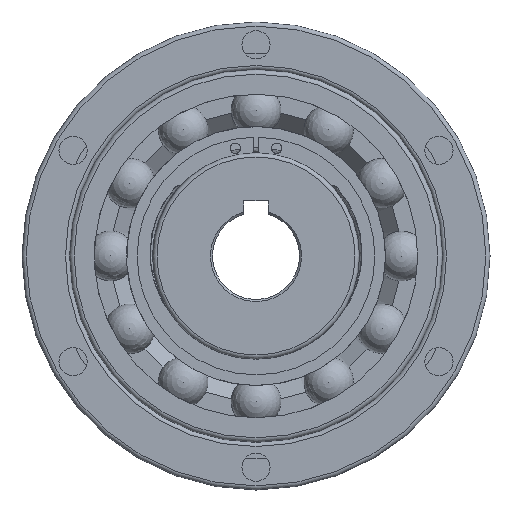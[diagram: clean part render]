
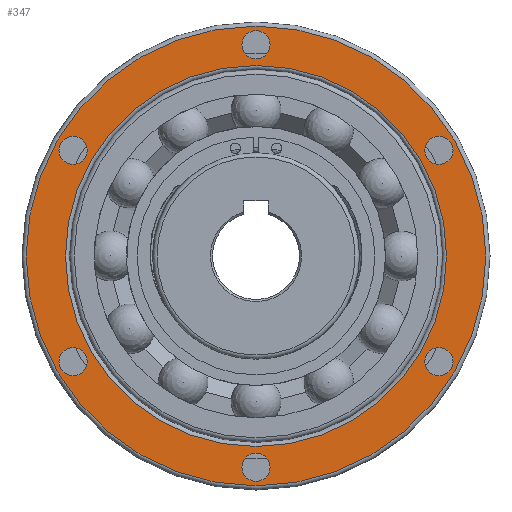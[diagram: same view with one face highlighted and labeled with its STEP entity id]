
A CAD part, left-side view. The second image highlights one B-rep face of the part: STEP entity #347.
In plain terms, the highlighted planar face has unit normal (-1, 0, 0).
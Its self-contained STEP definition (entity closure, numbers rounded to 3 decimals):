
#347 = ADVANCED_FACE( '', ( #806, #807, #808, #809, #810, #811, #812, #813 ), #814, .F. );
#806 = FACE_OUTER_BOUND( '', #1426, .T. );
#807 = FACE_BOUND( '', #1427, .T. );
#808 = FACE_BOUND( '', #1428, .T. );
#809 = FACE_BOUND( '', #1429, .T. );
#810 = FACE_BOUND( '', #1430, .T. );
#811 = FACE_BOUND( '', #1431, .T. );
#812 = FACE_BOUND( '', #1432, .T. );
#813 = FACE_BOUND( '', #1433, .T. );
#814 = PLANE( '', #1434 );
#1426 = EDGE_LOOP( '', ( #2454 ) );
#1427 = EDGE_LOOP( '', ( #2455 ) );
#1428 = EDGE_LOOP( '', ( #2456 ) );
#1429 = EDGE_LOOP( '', ( #2457 ) );
#1430 = EDGE_LOOP( '', ( #2458 ) );
#1431 = EDGE_LOOP( '', ( #2459 ) );
#1432 = EDGE_LOOP( '', ( #2460 ) );
#1433 = EDGE_LOOP( '', ( #2461 ) );
#1434 = AXIS2_PLACEMENT_3D( '', #2462, #2463, #2464 );
#2454 = ORIENTED_EDGE( '', *, *, #3426, .T. );
#2455 = ORIENTED_EDGE( '', *, *, #3427, .T. );
#2456 = ORIENTED_EDGE( '', *, *, #3188, .T. );
#2457 = ORIENTED_EDGE( '', *, *, #3092, .T. );
#2458 = ORIENTED_EDGE( '', *, *, #3428, .T. );
#2459 = ORIENTED_EDGE( '', *, *, #3328, .T. );
#2460 = ORIENTED_EDGE( '', *, *, #3429, .T. );
#2461 = ORIENTED_EDGE( '', *, *, #3279, .T. );
#2462 = CARTESIAN_POINT( '', ( 4.5, 0., 56.5 ) );
#2463 = DIRECTION( '', ( 1., 0., 0. ) );
#2464 = DIRECTION( '', ( 0., 1., 0. ) );
#3092 = EDGE_CURVE( '', #3664, #3664, #3665, .T. );
#3188 = EDGE_CURVE( '', #3828, #3828, #3829, .T. );
#3279 = EDGE_CURVE( '', #3968, #3968, #3969, .T. );
#3328 = EDGE_CURVE( '', #4043, #4043, #4044, .T. );
#3426 = EDGE_CURVE( '', #4185, #4185, #4186, .T. );
#3427 = EDGE_CURVE( '', #4187, #4187, #4188, .T. );
#3428 = EDGE_CURVE( '', #4189, #4189, #4190, .T. );
#3429 = EDGE_CURVE( '', #4191, #4191, #4192, .T. );
#3664 = VERTEX_POINT( '', #4782 );
#3665 = CIRCLE( '', #4783, 3.4 );
#3828 = VERTEX_POINT( '', #5295 );
#3829 = CIRCLE( '', #5296, 3.4 );
#3968 = VERTEX_POINT( '', #5811 );
#3969 = CIRCLE( '', #5812, 3.4 );
#4043 = VERTEX_POINT( '', #6057 );
#4044 = CIRCLE( '', #6058, 3.4 );
#4185 = VERTEX_POINT( '', #6472 );
#4186 = CIRCLE( '', #6473, 55.5 );
#4187 = VERTEX_POINT( '', #6474 );
#4188 = CIRCLE( '', #6475, 46. );
#4189 = VERTEX_POINT( '', #6476 );
#4190 = CIRCLE( '', #6477, 3.4 );
#4191 = VERTEX_POINT( '', #6478 );
#4192 = CIRCLE( '', #6479, 3.4 );
#4782 = CARTESIAN_POINT( '', ( 4.5, -44.167, -28.9 ) );
#4783 = AXIS2_PLACEMENT_3D( '', #6884, #6885, #6886 );
#5295 = CARTESIAN_POINT( '', ( 4.5, -44.167, 22.1 ) );
#5296 = AXIS2_PLACEMENT_3D( '', #7014, #7015, #7016 );
#5811 = CARTESIAN_POINT( '', ( 4.5, 0., 47.6 ) );
#5812 = AXIS2_PLACEMENT_3D( '', #7099, #7100, #7101 );
#6057 = CARTESIAN_POINT( '', ( 4.5, 44.167, -28.9 ) );
#6058 = AXIS2_PLACEMENT_3D( '', #7163, #7164, #7165 );
#6472 = CARTESIAN_POINT( '', ( 4.5, 0., -55.5 ) );
#6473 = AXIS2_PLACEMENT_3D( '', #7280, #7281, #7282 );
#6474 = CARTESIAN_POINT( '', ( 4.5, 0., -46. ) );
#6475 = AXIS2_PLACEMENT_3D( '', #7283, #7284, #7285 );
#6476 = CARTESIAN_POINT( '', ( 4.5, 0., -54.4 ) );
#6477 = AXIS2_PLACEMENT_3D( '', #7286, #7287, #7288 );
#6478 = CARTESIAN_POINT( '', ( 4.5, 44.167, 22.1 ) );
#6479 = AXIS2_PLACEMENT_3D( '', #7289, #7290, #7291 );
#6884 = CARTESIAN_POINT( '', ( 4.5, -44.167, -25.5 ) );
#6885 = DIRECTION( '', ( 1., 0., 0. ) );
#6886 = DIRECTION( '', ( 0., 0., -1. ) );
#7014 = CARTESIAN_POINT( '', ( 4.5, -44.167, 25.5 ) );
#7015 = DIRECTION( '', ( 1., 0., 0. ) );
#7016 = DIRECTION( '', ( 0., 0., -1. ) );
#7099 = CARTESIAN_POINT( '', ( 4.5, 0., 51. ) );
#7100 = DIRECTION( '', ( 1., 0., 0. ) );
#7101 = DIRECTION( '', ( 0., 0., -1. ) );
#7163 = CARTESIAN_POINT( '', ( 4.5, 44.167, -25.5 ) );
#7164 = DIRECTION( '', ( 1., 0., 0. ) );
#7165 = DIRECTION( '', ( 0., 0., -1. ) );
#7280 = CARTESIAN_POINT( '', ( 4.5, 0., 0. ) );
#7281 = DIRECTION( '', ( -1., 0., 0. ) );
#7282 = DIRECTION( '', ( 0., 0., -1. ) );
#7283 = CARTESIAN_POINT( '', ( 4.5, 0., 0. ) );
#7284 = DIRECTION( '', ( 1., 0., 0. ) );
#7285 = DIRECTION( '', ( 0., 0., -1. ) );
#7286 = CARTESIAN_POINT( '', ( 4.5, 0., -51. ) );
#7287 = DIRECTION( '', ( 1., 0., 0. ) );
#7288 = DIRECTION( '', ( 0., 0., -1. ) );
#7289 = CARTESIAN_POINT( '', ( 4.5, 44.167, 25.5 ) );
#7290 = DIRECTION( '', ( 1., 0., 0. ) );
#7291 = DIRECTION( '', ( 0., 0., -1. ) );
